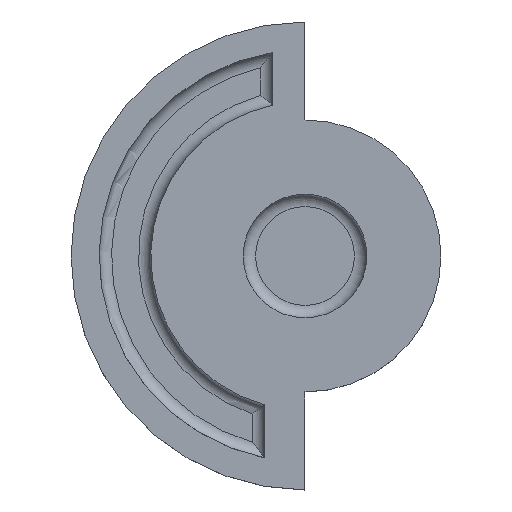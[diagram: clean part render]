
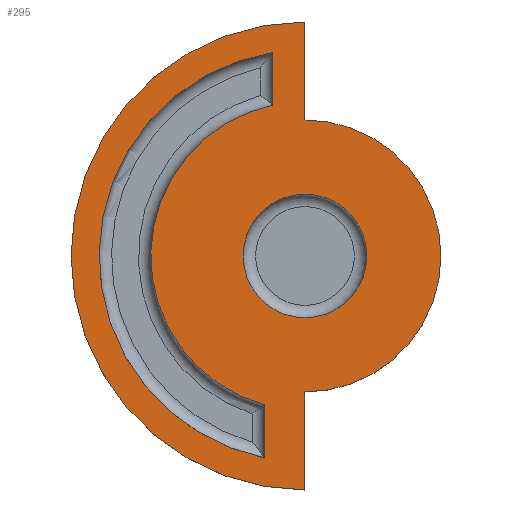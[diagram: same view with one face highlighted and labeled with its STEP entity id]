
A CAD part, top view. The second image highlights one B-rep face of the part: STEP entity #295.
In plain terms, the highlighted planar face has unit normal (0, 0, 1).
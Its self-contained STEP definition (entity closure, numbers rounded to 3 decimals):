
#15=FACE_BOUND('',#82,.T.);
#16=FACE_BOUND('',#83,.T.);
#23=PLANE('',#346);
#32=CIRCLE('',#335,33.303);
#34=CIRCLE('',#339,24.949);
#37=CIRCLE('',#344,10.);
#38=CIRCLE('',#347,37.855);
#39=CIRCLE('',#348,22.);
#60=FACE_OUTER_BOUND('',#81,.T.);
#81=EDGE_LOOP('',(#227,#228,#229,#230));
#82=EDGE_LOOP('',(#231));
#83=EDGE_LOOP('',(#232,#233,#234,#235));
#105=LINE('',#474,#121);
#108=LINE('',#529,#124);
#109=LINE('',#560,#125);
#110=LINE('',#563,#126);
#121=VECTOR('',#376,10.);
#124=VECTOR('',#387,10.);
#125=VECTOR('',#410,10.);
#126=VECTOR('',#413,10.);
#137=VERTEX_POINT('',#472);
#138=VERTEX_POINT('',#473);
#142=VERTEX_POINT('',#509);
#144=VERTEX_POINT('',#528);
#146=VERTEX_POINT('',#551);
#147=VERTEX_POINT('',#556);
#148=VERTEX_POINT('',#557);
#149=VERTEX_POINT('',#559);
#150=VERTEX_POINT('',#561);
#163=EDGE_CURVE('',#137,#138,#105,.T.);
#168=EDGE_CURVE('',#142,#137,#32,.T.);
#171=EDGE_CURVE('',#144,#142,#108,.T.);
#174=EDGE_CURVE('',#138,#144,#34,.T.);
#177=EDGE_CURVE('',#146,#146,#37,.T.);
#178=EDGE_CURVE('',#147,#148,#38,.T.);
#179=EDGE_CURVE('',#148,#149,#109,.T.);
#180=EDGE_CURVE('',#149,#150,#39,.T.);
#181=EDGE_CURVE('',#150,#147,#110,.T.);
#227=ORIENTED_EDGE('',*,*,#178,.T.);
#228=ORIENTED_EDGE('',*,*,#179,.T.);
#229=ORIENTED_EDGE('',*,*,#180,.T.);
#230=ORIENTED_EDGE('',*,*,#181,.T.);
#231=ORIENTED_EDGE('',*,*,#177,.T.);
#232=ORIENTED_EDGE('',*,*,#174,.T.);
#233=ORIENTED_EDGE('',*,*,#171,.T.);
#234=ORIENTED_EDGE('',*,*,#168,.T.);
#235=ORIENTED_EDGE('',*,*,#163,.T.);
#295=ADVANCED_FACE('',(#60,#15,#16),#23,.T.);
#335=AXIS2_PLACEMENT_3D('',#510,#382,#383);
#339=AXIS2_PLACEMENT_3D('',#546,#392,#393);
#344=AXIS2_PLACEMENT_3D('',#553,#402,#403);
#346=AXIS2_PLACEMENT_3D('',#555,#406,#407);
#347=AXIS2_PLACEMENT_3D('',#558,#408,#409);
#348=AXIS2_PLACEMENT_3D('',#562,#411,#412);
#376=DIRECTION('',(0.,-1.,0.));
#382=DIRECTION('center_axis',(0.,0.,-1.));
#383=DIRECTION('ref_axis',(0.156,-0.988,0.));
#387=DIRECTION('',(0.,-1.,0.));
#392=DIRECTION('center_axis',(0.,0.,1.));
#393=DIRECTION('ref_axis',(-0.208,0.978,0.));
#402=DIRECTION('center_axis',(0.,0.,-1.));
#403=DIRECTION('ref_axis',(-1.,0.,0.));
#406=DIRECTION('center_axis',(0.,0.,1.));
#407=DIRECTION('ref_axis',(1.,0.,0.));
#408=DIRECTION('center_axis',(0.,0.,1.));
#409=DIRECTION('ref_axis',(0.,1.,0.));
#410=DIRECTION('',(0.,1.,0.));
#411=DIRECTION('center_axis',(0.,0.,1.));
#412=DIRECTION('ref_axis',(0.,-1.,0.));
#413=DIRECTION('',(0.,1.,0.));
#472=CARTESIAN_POINT('',(-5.179,32.898,7.));
#473=CARTESIAN_POINT('',(-5.179,24.406,7.));
#474=CARTESIAN_POINT('',(-5.179,32.898,7.));
#509=CARTESIAN_POINT('',(-6.516,-32.66,7.));
#510=CARTESIAN_POINT('Origin',(0.,0.,
7.));
#528=CARTESIAN_POINT('',(-6.516,-24.083,7.));
#529=CARTESIAN_POINT('',(-6.516,-24.083,7.));
#546=CARTESIAN_POINT('Origin',(0.,0.,
7.));
#551=CARTESIAN_POINT('',(-10.,0.,7.));
#553=CARTESIAN_POINT('Origin',(0.,0.,
7.));
#555=CARTESIAN_POINT('Origin',(-7.928,0.,7.));
#556=CARTESIAN_POINT('',(0.,37.855,7.));
#557=CARTESIAN_POINT('',(0.,-37.855,7.));
#558=CARTESIAN_POINT('Origin',(0.,0.,
7.));
#559=CARTESIAN_POINT('',(0.,-22.,7.));
#560=CARTESIAN_POINT('',(0.,-37.855,7.));
#561=CARTESIAN_POINT('',(0.,22.,7.));
#562=CARTESIAN_POINT('Origin',(0.,0.,
7.));
#563=CARTESIAN_POINT('',(0.,22.,7.));
